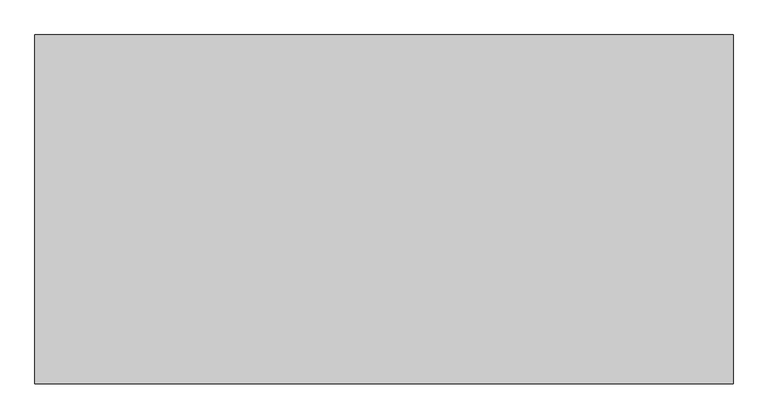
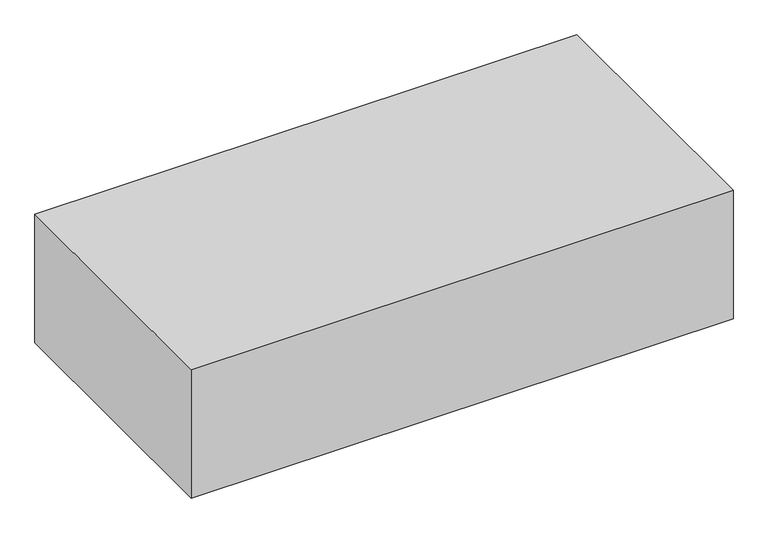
"""IFC4 building model written with IfcOpenShell, lengths in millimetres: valve geometry, Pipelife - Stormbox - Skrzynka rozsączająca : Skrzynka rozsączająca."""

from ifc_helpers import new_model, si_unit, origin, origin_with_axes, place, context, project, spatial, polyline, outline, extrude, source, transform, mapped, element, save


def valve_dc003401(model_context):
    return source(origin(), model_context, "Body", "SweptSolid", [
        extrude(outline(polyline([(601.0, 300.5), (601.0, -300.5), (-601.0, -300.5), (-601.0, 300.5), (601.0, 300.5)])), origin_with_axes(), (0.0, 0.0, 1.0), 301.0),
    ])


if __name__ == "__main__":
    model = new_model("IFC4")
    model_context = context("Model", 3, world=origin())
    ifc_project = project(units=[si_unit("LENGTHUNIT", "METRE", prefix="MILLI")], contexts=[model_context])
    site = spatial("IfcSite", under=ifc_project)
    building = spatial("IfcBuilding", under=site)
    placement = place(None, origin())
    valve_shape = valve_dc003401(model_context)
    element("IfcValve", 1, ObjectType="Pipelife - Stormbox - Skrzynka rozsączająca : Skrzynka rozsączająca", at=placement, inside=building, context=model_context, shape_type="MappedRepresentation", body=[
        mapped(valve_shape, transform((0.0, 0.0, 0.0), x_axis=(1.0, 0.0, 0.0), y_axis=(0.0, 1.0, 0.0), z_axis=(0.0, 0.0, 1.0))),
    ])
    save(model, "model.ifc")
